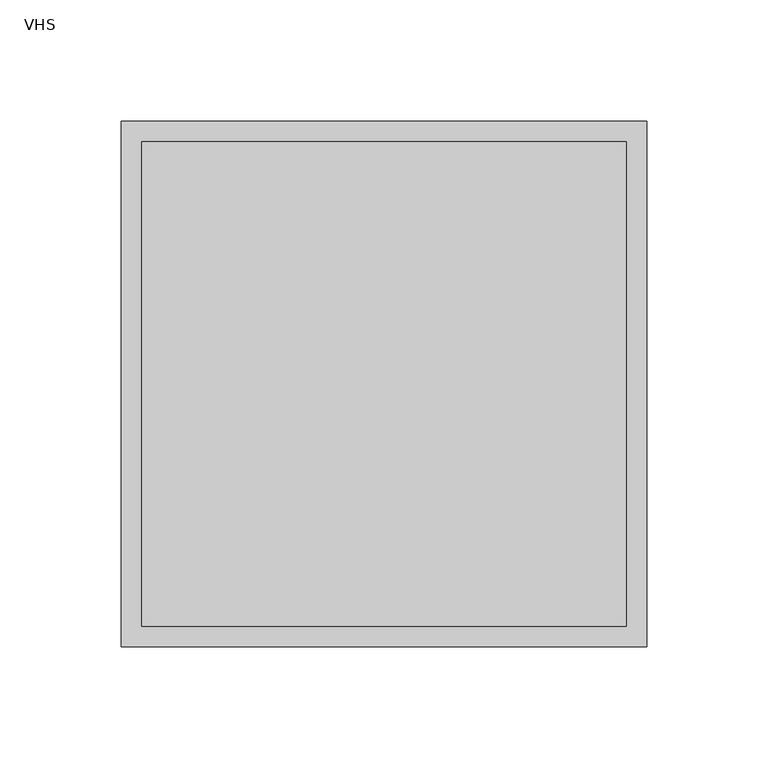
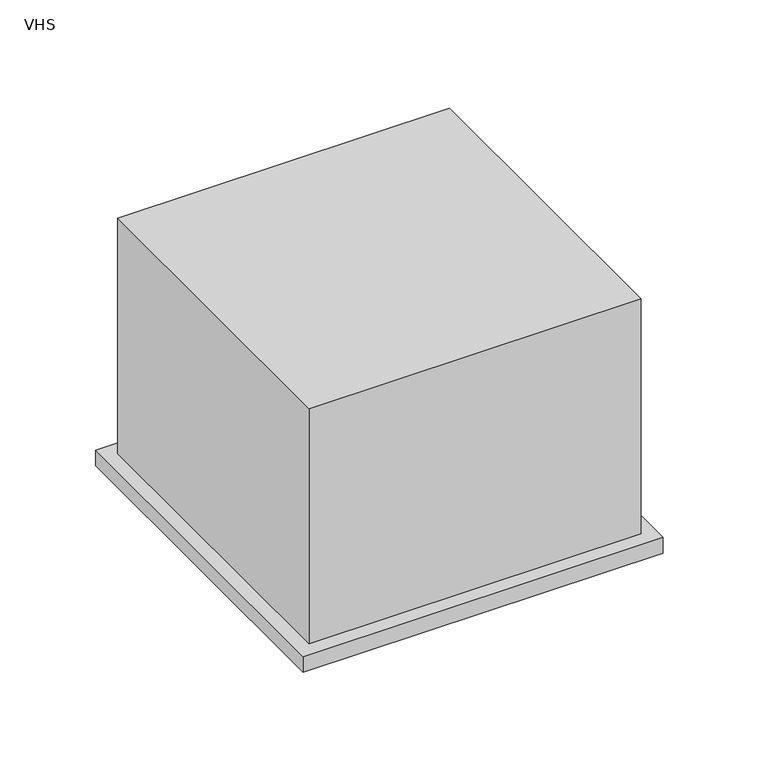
"""IFC4 building model written with IfcOpenShell, lengths in millimetres: air terminal geometry, 031_ユニバーサル形吹出口 : VHS."""

from ifc_helpers import new_model, si_unit, frame, origin, origin_with_axes, place, context, project, spatial, polyline, outline, extrude, source, transform, mapped, element, save


def vhs_5bb502de(model_context):
    return source(origin(), model_context, "Body", "SweptSolid", [
        extrude(outline(polyline([(100.0, 100.0), (100.0, -100.0), (-100.0, -100.0), (-100.0, 100.0), (100.0, 100.0)])), origin_with_axes(), (0.0, 0.0, 1.0), 150.0),
        extrude(outline(polyline([(108.5, -108.5), (-108.5, -108.5), (-108.5, 108.5), (108.5, 108.5), (108.5, -108.5)]), holes=[polyline([(100.0, -100.0), (100.0, 100.0), (-100.0, 100.0), (-100.0, -100.0), (100.0, -100.0)])]), frame((0.0, 0.0, -10.0), z_axis=(0.0, 0.0, 1.0), x_axis=(1.0, 0.0, 0.0)), (0.0, 0.0, 1.0), 10.0),
    ])


if __name__ == "__main__":
    model = new_model("IFC4")
    model_context = context("Model", 3, world=origin())
    ifc_project = project(units=[si_unit("LENGTHUNIT", "METRE", prefix="MILLI")], contexts=[model_context])
    site = spatial("IfcSite", under=ifc_project)
    building = spatial("IfcBuilding", under=site)
    placement = place(None, origin())
    vhs_shape = vhs_5bb502de(model_context)
    element("IfcAirTerminal", 1, ObjectType="031_ユニバーサル形吹出口 : VHS", at=placement, inside=building, context=model_context, shape_type="MappedRepresentation", body=[
        mapped(vhs_shape, transform((0.0, 0.0, 0.0), x_axis=(1.0, 0.0, 0.0), y_axis=(0.0, 1.0, 0.0), z_axis=(0.0, 0.0, 1.0))),
    ])
    save(model, "model.ifc")
